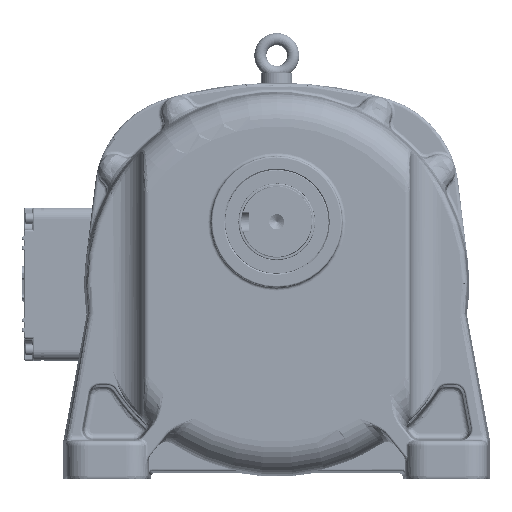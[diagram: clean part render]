
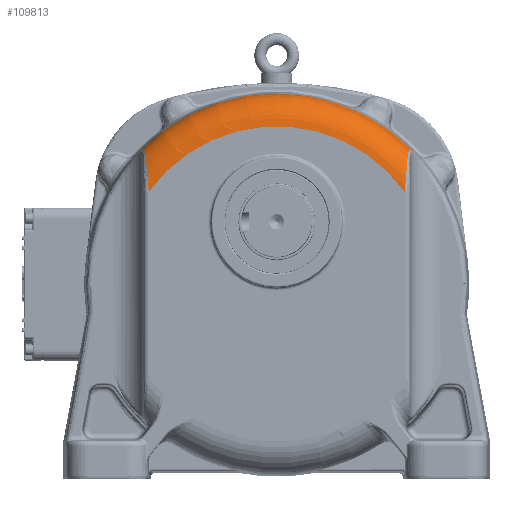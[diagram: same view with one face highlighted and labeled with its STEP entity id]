
A CAD part, front view. The second image highlights one B-rep face of the part: STEP entity #109813.
In plain terms, the highlighted toroidal (fillet/blend) face has major radius 144.309 mm and minor radius 30 mm.
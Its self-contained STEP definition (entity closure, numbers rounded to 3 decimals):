
#2545=TOROIDAL_SURFACE('',#119625,144.309,30.);
#3974=B_SPLINE_CURVE_WITH_KNOTS('',3,(#197979,#197980,#197981,#197982,#197983),
 .UNSPECIFIED.,.F.,.F.,(4,1,4),(-3.01,-1.29,0.),
 .UNSPECIFIED.);
#3975=B_SPLINE_CURVE_WITH_KNOTS('',3,(#197987,#197988,#197989,#197990,#197991,
#197992),.UNSPECIFIED.,.F.,.F.,(4,1,1,4),(-3.01,-2.15,
-1.29,0.),.UNSPECIFIED.);
#3976=B_SPLINE_CURVE_WITH_KNOTS('',3,(#197993,#197994,#197995,#197996,#197997,
#197998,#197999,#198000),.UNSPECIFIED.,.F.,.F.,(4,1,1,1,1,4),(-2.011,
-1.723,-1.436,-0.862,-0.574,
0.),.UNSPECIFIED.);
#3977=B_SPLINE_CURVE_WITH_KNOTS('',3,(#198001,#198002,#198003,#198004,#198005,
#198006,#198007,#198008),.UNSPECIFIED.,.F.,.F.,(4,1,1,1,1,4),(0.,0.574,
0.862,1.436,1.723,2.011),
 .UNSPECIFIED.);
#12250=FACE_OUTER_BOUND('',#19012,.T.);
#19012=EDGE_LOOP('',(#84631,#84632,#84633,#84634,#84635,#84636));
#39005=CIRCLE('',#119617,174.308);
#39013=CIRCLE('',#119626,144.309);
#46695=VERTEX_POINT('',#197909);
#46696=VERTEX_POINT('',#197917);
#46707=VERTEX_POINT('',#197977);
#46708=VERTEX_POINT('',#197978);
#46709=VERTEX_POINT('',#197984);
#46710=VERTEX_POINT('',#197986);
#59952=EDGE_CURVE('',#46696,#46695,#39005,.T.);
#59968=EDGE_CURVE('',#46707,#46708,#3974,.T.);
#59969=EDGE_CURVE('',#46707,#46709,#39013,.T.);
#59970=EDGE_CURVE('',#46710,#46709,#3975,.T.);
#59971=EDGE_CURVE('',#46696,#46710,#3976,.T.);
#59972=EDGE_CURVE('',#46708,#46695,#3977,.T.);
#84631=ORIENTED_EDGE('',*,*,#59968,.F.);
#84632=ORIENTED_EDGE('',*,*,#59969,.T.);
#84633=ORIENTED_EDGE('',*,*,#59970,.F.);
#84634=ORIENTED_EDGE('',*,*,#59971,.F.);
#84635=ORIENTED_EDGE('',*,*,#59952,.T.);
#84636=ORIENTED_EDGE('',*,*,#59972,.F.);
#109813=ADVANCED_FACE('',(#12250),#2545,.T.);
#119617=AXIS2_PLACEMENT_3D('',#197918,#141518,#141519);
#119625=AXIS2_PLACEMENT_3D('',#197976,#141534,#141535);
#119626=AXIS2_PLACEMENT_3D('',#197985,#141536,#141537);
#141518=DIRECTION('center_axis',(0.,-1.,0.));
#141519=DIRECTION('ref_axis',(-1.,0.,0.));
#141534=DIRECTION('center_axis',(0.,1.,0.));
#141535=DIRECTION('ref_axis',(0.,0.,1.));
#141536=DIRECTION('center_axis',(0.,1.,0.));
#141537=DIRECTION('ref_axis',(-1.,0.,0.));
#197909=CARTESIAN_POINT('',(-137.843,10.431,119.577));
#197917=CARTESIAN_POINT('',(112.46,10.431,119.577));
#197918=CARTESIAN_POINT('Origin',(-12.691,10.431,-1.75));
#197976=CARTESIAN_POINT('Origin',(-12.691,10.742,-1.75));
#197977=CARTESIAN_POINT('',(-129.691,-19.258,82.726));
#197978=CARTESIAN_POINT('',(-132.328,-9.658,113.768));
#197979=CARTESIAN_POINT('Ctrl Pts',(-129.691,-19.258,
82.726));
#197980=CARTESIAN_POINT('Ctrl Pts',(-130.235,-19.258,
88.852));
#197981=CARTESIAN_POINT('Ctrl Pts',(-131.187,-17.871,
99.762));
#197982=CARTESIAN_POINT('Ctrl Pts',(-132.023,-12.751,
109.954));
#197983=CARTESIAN_POINT('Ctrl Pts',(-132.328,-9.658,
113.768));
#197984=CARTESIAN_POINT('',(104.309,-19.258,82.726));
#197985=CARTESIAN_POINT('Origin',(-12.691,-19.258,-1.75));
#197986=CARTESIAN_POINT('',(106.946,-9.658,113.768));
#197987=CARTESIAN_POINT('Ctrl Pts',(106.946,-9.658,
113.768));
#197988=CARTESIAN_POINT('Ctrl Pts',(106.743,-11.72,
111.226));
#197989=CARTESIAN_POINT('Ctrl Pts',(106.288,-15.051,105.632));
#197990=CARTESIAN_POINT('Ctrl Pts',(105.397,-18.506,95.069));
#197991=CARTESIAN_POINT('Ctrl Pts',(104.717,-19.258,
87.321));
#197992=CARTESIAN_POINT('Ctrl Pts',(104.309,-19.258,
82.726));
#197993=CARTESIAN_POINT('Ctrl Pts',(112.46,10.431,119.577));
#197994=CARTESIAN_POINT('Ctrl Pts',(112.014,9.55,120.024));
#197995=CARTESIAN_POINT('Ctrl Pts',(111.14,7.678,120.774));
#197996=CARTESIAN_POINT('Ctrl Pts',(109.514,3.515,121.518));
#197997=CARTESIAN_POINT('Ctrl Pts',(108.279,-0.986,
120.65));
#197998=CARTESIAN_POINT('Ctrl Pts',(107.364,-5.886,
117.822));
#197999=CARTESIAN_POINT('Ctrl Pts',(107.082,-8.28,
115.467));
#198000=CARTESIAN_POINT('Ctrl Pts',(106.946,-9.658,113.768));
#198001=CARTESIAN_POINT('Ctrl Pts',(-132.328,-9.658,
113.768));
#198002=CARTESIAN_POINT('Ctrl Pts',(-132.464,-8.28,
115.467));
#198003=CARTESIAN_POINT('Ctrl Pts',(-132.747,-5.886,
117.822));
#198004=CARTESIAN_POINT('Ctrl Pts',(-133.662,-0.986,
120.65));
#198005=CARTESIAN_POINT('Ctrl Pts',(-134.896,3.515,
121.518));
#198006=CARTESIAN_POINT('Ctrl Pts',(-136.522,7.679,
120.773));
#198007=CARTESIAN_POINT('Ctrl Pts',(-137.396,9.55,
120.024));
#198008=CARTESIAN_POINT('Ctrl Pts',(-137.843,10.431,
119.577));
